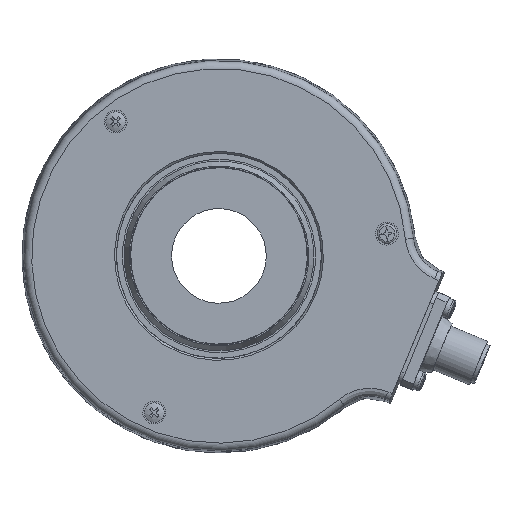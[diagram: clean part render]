
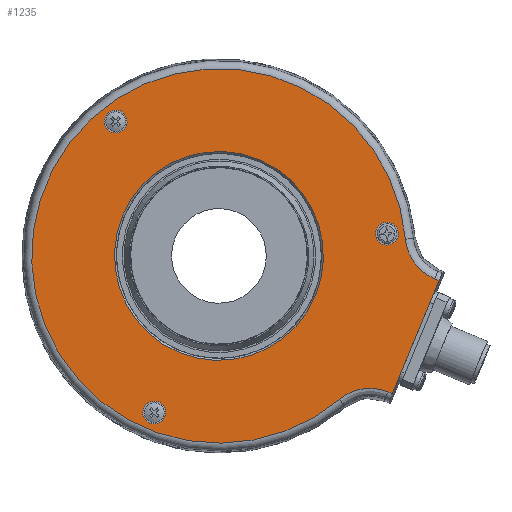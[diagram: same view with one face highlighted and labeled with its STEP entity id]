
A CAD part, left-side view. The second image highlights one B-rep face of the part: STEP entity #1235.
In plain terms, the highlighted planar face has unit normal (-1, 0, 0).
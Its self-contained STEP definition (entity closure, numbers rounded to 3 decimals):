
#874 = B_SPLINE_CURVE_WITH_KNOTS ( 'NONE', 3,
 ( #5740, #5736, #5744, #5745, #5746, #5747, #5748, #5749, #5750, #5751, #5752, #5753, #5754, #5755, #5756, #5757 ),
 .UNSPECIFIED., .F., .F.,
 ( 4, 2, 2, 2, 2, 2, 2, 4 ),
 ( 0., 0.003, 0.005, 0.007, 0.008, 0.01, 0.011, 0.013 ),
 .UNSPECIFIED. ) ;
#938 = B_SPLINE_CURVE_WITH_KNOTS ( 'NONE', 3,
 ( #5773, #5771, #5763, #5774, #5775, #5776, #5777, #5778, #5779, #5780, #5781, #5782, #5783, #5784, #5785, #5786 ),
 .UNSPECIFIED., .F., .F.,
 ( 4, 2, 2, 2, 2, 2, 2, 4 ),
 ( 0., 0.003, 0.005, 0.007, 0.008, 0.01, 0.011, 0.013 ),
 .UNSPECIFIED. ) ;
#1235 = ADVANCED_FACE ( 'NONE', ( #15642, #15646, #15641, #15643, #15649 ), #13332, .F. ) ;
#2162 = CARTESIAN_POINT ( 'NONE',  ( -8.046, -16.067, -2.861 ) ) ;
#2167 = CARTESIAN_POINT ( 'NONE',  ( -8.046, -5.352, -32.051 ) ) ;
#2198 = CARTESIAN_POINT ( 'NONE',  ( -8.046, -17.216, -3.336 ) ) ;
#2211 = CARTESIAN_POINT ( 'NONE',  ( -8.046, -4.203, -31.576 ) ) ;
#2249 = CARTESIAN_POINT ( 'NONE',  ( -8.046, 8.09, -33.473 ) ) ;
#2260 = CARTESIAN_POINT ( 'NONE',  ( -8.046, -8.698, 7.159 ) ) ;
#2501 = CARTESIAN_POINT ( 'NONE',  ( -8.046, 28.505, 27.419 ) ) ;
#2503 = CARTESIAN_POINT ( 'NONE',  ( -8.046, -6.878, 8.959 ) ) ;
#2508 = CARTESIAN_POINT ( 'NONE',  ( -8.046, 56.151, -39.495 ) ) ;
#2620 = CARTESIAN_POINT ( 'NONE',  ( -8.046, 66.599, 39.316 ) ) ;
#5696 = CARTESIAN_POINT ( 'NONE',  ( -8.046, -16.047, -2.853 ) ) ;
#5708 = DIRECTION ( 'NONE',  ( 0., 0.924, 0.382 ) ) ;
#5714 = CARTESIAN_POINT ( 'NONE',  ( -8.046, -17.966, -1.519 ) ) ;
#5715 = CARTESIAN_POINT ( 'NONE',  ( -8.046, 38.624, 2.927 ) ) ;
#5716 = DIRECTION ( 'NONE',  ( 1., 0., 0. ) ) ;
#5717 = DIRECTION ( 'NONE',  ( 0., -0.382, 0.924 ) ) ;
#5718 = DIRECTION ( 'NONE',  ( 0., -0.382, 0.924 ) ) ;
#5727 = CARTESIAN_POINT ( 'NONE',  ( -8.046, -4.003, 8.578 ) ) ;
#5728 = DIRECTION ( 'NONE',  ( -1., 0., 0. ) ) ;
#5729 = DIRECTION ( 'NONE',  ( 0., -0.991, 0.131 ) ) ;
#5736 = CARTESIAN_POINT ( 'NONE',  ( -8.046, 7.247, -32.766 ) ) ;
#5740 = CARTESIAN_POINT ( 'NONE',  ( -8.046, 8.09, -33.473 ) ) ;
#5744 = CARTESIAN_POINT ( 'NONE',  ( -8.046, 6.329, -32.19 ) ) ;
#5745 = CARTESIAN_POINT ( 'NONE',  ( -8.046, 4.841, -31.514 ) ) ;
#5746 = CARTESIAN_POINT ( 'NONE',  ( -8.046, 4.323, -31.321 ) ) ;
#5747 = CARTESIAN_POINT ( 'NONE',  ( -8.046, 3.279, -31.01 ) ) ;
#5748 = CARTESIAN_POINT ( 'NONE',  ( -8.046, 2.75, -30.891 ) ) ;
#5749 = CARTESIAN_POINT ( 'NONE',  ( -8.046, 1.679, -30.725 ) ) ;
#5750 = CARTESIAN_POINT ( 'NONE',  ( -8.046, 1.135, -30.678 ) ) ;
#5751 = CARTESIAN_POINT ( 'NONE',  ( -8.046, 0.037, -30.659 ) ) ;
#5752 = CARTESIAN_POINT ( 'NONE',  ( -8.046, -0.507, -30.687 ) ) ;
#5753 = CARTESIAN_POINT ( 'NONE',  ( -8.046, -1.583, -30.816 ) ) ;
#5754 = CARTESIAN_POINT ( 'NONE',  ( -8.046, -2.116, -30.916 ) ) ;
#5755 = CARTESIAN_POINT ( 'NONE',  ( -8.046, -3.172, -31.191 ) ) ;
#5756 = CARTESIAN_POINT ( 'NONE',  ( -8.046, -3.695, -31.366 ) ) ;
#5757 = CARTESIAN_POINT ( 'NONE',  ( -8.046, -4.203, -31.576 ) ) ;
#5763 = CARTESIAN_POINT ( 'NONE',  ( -8.046, -14.115, -1.894 ) ) ;
#5768 = CARTESIAN_POINT ( 'NONE',  ( -8.046, 38.624, 2.927 ) ) ;
#5769 = DIRECTION ( 'NONE',  ( -1., 0., 0. ) ) ;
#5770 = DIRECTION ( 'NONE',  ( 0., -0.382, 0.924 ) ) ;
#5771 = CARTESIAN_POINT ( 'NONE',  ( -8.046, -15.051, -2.441 ) ) ;
#5773 = CARTESIAN_POINT ( 'NONE',  ( -8.046, -16.067, -2.861 ) ) ;
#5774 = CARTESIAN_POINT ( 'NONE',  ( -8.046, -12.827, -0.887 ) ) ;
#5775 = CARTESIAN_POINT ( 'NONE',  ( -8.046, -12.416, -0.518 ) ) ;
#5776 = CARTESIAN_POINT ( 'NONE',  ( -8.046, -11.658, 0.264 ) ) ;
#5777 = CARTESIAN_POINT ( 'NONE',  ( -8.046, -11.308, 0.678 ) ) ;
#5778 = CARTESIAN_POINT ( 'NONE',  ( -8.046, -10.665, 1.551 ) ) ;
#5779 = CARTESIAN_POINT ( 'NONE',  ( -8.046, -10.371, 2.012 ) ) ;
#5780 = CARTESIAN_POINT ( 'NONE',  ( -8.046, -9.846, 2.976 ) ) ;
#5781 = CARTESIAN_POINT ( 'NONE',  ( -8.046, -9.62, 3.471 ) ) ;
#5782 = CARTESIAN_POINT ( 'NONE',  ( -8.046, -9.236, 4.485 ) ) ;
#5783 = CARTESIAN_POINT ( 'NONE',  ( -8.046, -9.078, 5.004 ) ) ;
#5784 = CARTESIAN_POINT ( 'NONE',  ( -8.046, -8.834, 6.067 ) ) ;
#5785 = CARTESIAN_POINT ( 'NONE',  ( -8.046, -8.747, 6.612 ) ) ;
#5786 = CARTESIAN_POINT ( 'NONE',  ( -8.046, -8.698, 7.159 ) ) ;
#5787 = CARTESIAN_POINT ( 'NONE',  ( -8.046, -5.352, -32.051 ) ) ;
#5788 = DIRECTION ( 'NONE',  ( 0., -0.924, -0.382 ) ) ;
#5823 = CARTESIAN_POINT ( 'NONE',  ( -8.046, 55.044, -36.815 ) ) ;
#5824 = DIRECTION ( 'NONE',  ( -1., 0., 0. ) ) ;
#5825 = DIRECTION ( 'NONE',  ( 0., 0.382, -0.924 ) ) ;
#6279 = CARTESIAN_POINT ( 'NONE',  ( -8.046, 64.832, 37.017 ) ) ;
#6280 = DIRECTION ( 'NONE',  ( -1., 0., 0. ) ) ;
#6281 = DIRECTION ( 'NONE',  ( 0., 0.609, 0.793 ) ) ;
#7587 = VERTEX_POINT ( 'NONE', #2501 ) ;
#7589 = VERTEX_POINT ( 'NONE', #2503 ) ;
#7594 = VERTEX_POINT ( 'NONE', #2508 ) ;
#7707 = VERTEX_POINT ( 'NONE', #2620 ) ;
#9462 = CIRCLE ( 'NONE', #10996, 2.9 ) ;
#10754 = AXIS2_PLACEMENT_3D ( 'NONE', #5715, #5716, #5717 ) ;
#10756 = AXIS2_PLACEMENT_3D ( 'NONE', #5727, #5728, #5729 ) ;
#10761 = AXIS2_PLACEMENT_3D ( 'NONE', #5768, #5769, #5770 ) ;
#10762 = AXIS2_PLACEMENT_3D ( 'NONE', #5823, #5824, #5825 ) ;
#10996 = AXIS2_PLACEMENT_3D ( 'NONE', #6279, #6280, #6281 ) ;
#11514 = EDGE_CURVE ( 'NONE', #18178, #18094, #13561, .T. ) ;
#11517 = EDGE_CURVE ( 'NONE', #7587, #7587, #13713, .T. ) ;
#11518 = EDGE_CURVE ( 'NONE', #18100, #18178, #13634, .T. ) ;
#11522 = EDGE_CURVE ( 'NONE', #7589, #7589, #13616, .T. ) ;
#11529 = EDGE_CURVE ( 'NONE', #18234, #18191, #874, .T. ) ;
#11532 = EDGE_CURVE ( 'NONE', #18245, #18234, #13604, .T. ) ;
#11534 = EDGE_CURVE ( 'NONE', #18094, #18245, #938, .T. ) ;
#11535 = EDGE_CURVE ( 'NONE', #18191, #18100, #13574, .T. ) ;
#11554 = EDGE_CURVE ( 'NONE', #7594, #7594, #13758, .T. ) ;
#12011 = EDGE_CURVE ( 'NONE', #7707, #7707, #9462, .T. ) ;
#12245 = AXIS2_PLACEMENT_3D ( 'NONE', #13100, #13190, #13163 ) ;
#13100 = CARTESIAN_POINT ( 'NONE',  ( -8.046, 14.594, -7.001 ) ) ;
#13163 = DIRECTION ( 'NONE',  ( 0., -0.382, 0.924 ) ) ;
#13190 = DIRECTION ( 'NONE',  ( 1., 0., 0. ) ) ;
#13332 = PLANE ( 'NONE',  #12245 ) ;
#13561 = LINE ( 'NONE', #5696, #13611 ) ;
#13565 = VECTOR ( 'NONE', #5718, 1000. ) ;
#13571 = VECTOR ( 'NONE', #5788, 1000. ) ;
#13574 = LINE ( 'NONE', #5787, #13571 ) ;
#13604 = CIRCLE ( 'NONE', #10761, 47.511 ) ;
#13611 = VECTOR ( 'NONE', #5708, 1000. ) ;
#13616 = CIRCLE ( 'NONE', #10756, 2.9 ) ;
#13634 = LINE ( 'NONE', #5714, #13565 ) ;
#13713 = CIRCLE ( 'NONE', #10754, 26.5 ) ;
#13758 = CIRCLE ( 'NONE', #10762, 2.9 ) ;
#15641 = FACE_BOUND ( 'NONE', #17716, .T. ) ;
#15642 = FACE_BOUND ( 'NONE', #17286, .T. ) ;
#15643 = FACE_BOUND ( 'NONE', #17757, .T. ) ;
#15646 = FACE_OUTER_BOUND ( 'NONE', #17293, .T. ) ;
#15649 = FACE_BOUND ( 'NONE', #17759, .T. ) ;
#16262 = ORIENTED_EDGE ( 'NONE', *, *, #11534, .T. ) ;
#16263 = ORIENTED_EDGE ( 'NONE', *, *, #11514, .T. ) ;
#16264 = ORIENTED_EDGE ( 'NONE', *, *, #11518, .T. ) ;
#16265 = ORIENTED_EDGE ( 'NONE', *, *, #11517, .T. ) ;
#16266 = ORIENTED_EDGE ( 'NONE', *, *, #11529, .T. ) ;
#16267 = ORIENTED_EDGE ( 'NONE', *, *, #11532, .T. ) ;
#16268 = ORIENTED_EDGE ( 'NONE', *, *, #11535, .T. ) ;
#16270 = ORIENTED_EDGE ( 'NONE', *, *, #11554, .F. ) ;
#16271 = ORIENTED_EDGE ( 'NONE', *, *, #12011, .F. ) ;
#16272 = ORIENTED_EDGE ( 'NONE', *, *, #11522, .F. ) ;
#17286 = EDGE_LOOP ( 'NONE', ( #16265 ) ) ;
#17293 = EDGE_LOOP ( 'NONE', ( #16264, #16263, #16262, #16267, #16266, #16268 ) ) ;
#17716 = EDGE_LOOP ( 'NONE', ( #16272 ) ) ;
#17757 = EDGE_LOOP ( 'NONE', ( #16271 ) ) ;
#17759 = EDGE_LOOP ( 'NONE', ( #16270 ) ) ;
#18094 = VERTEX_POINT ( 'NONE', #2162 ) ;
#18100 = VERTEX_POINT ( 'NONE', #2167 ) ;
#18178 = VERTEX_POINT ( 'NONE', #2198 ) ;
#18191 = VERTEX_POINT ( 'NONE', #2211 ) ;
#18234 = VERTEX_POINT ( 'NONE', #2249 ) ;
#18245 = VERTEX_POINT ( 'NONE', #2260 ) ;
